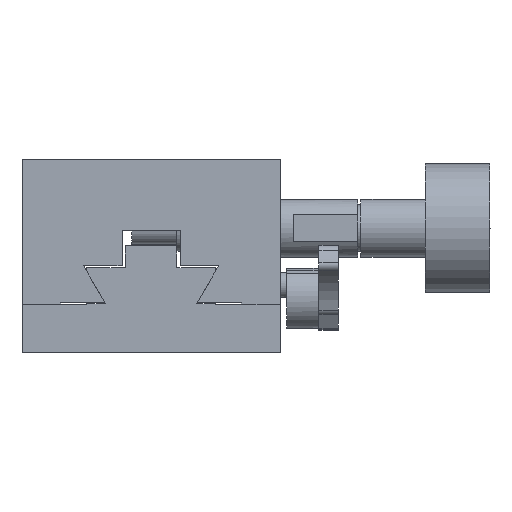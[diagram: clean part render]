
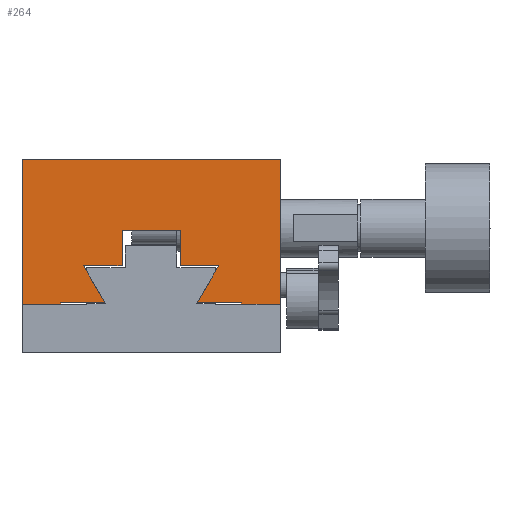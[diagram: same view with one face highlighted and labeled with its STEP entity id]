
A CAD part, left-side view. The second image highlights one B-rep face of the part: STEP entity #264.
In plain terms, the highlighted planar face has unit normal (-1, 0, 0).
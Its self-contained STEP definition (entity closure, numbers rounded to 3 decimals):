
#264 = ADVANCED_FACE( '', ( #566 ), #567, .T. );
#566 = FACE_OUTER_BOUND( '', #946, .T. );
#567 = PLANE( '', #947 );
#946 = EDGE_LOOP( '', ( #1803, #1804, #1805, #1806, #1807, #1808, #1809, #1810, #1811, #1812, #1813, #1814, #1815, #1816, #1817, #1818 ) );
#947 = AXIS2_PLACEMENT_3D( '', #1819, #1820, #1821 );
#1803 = ORIENTED_EDGE( '', *, *, #2479, .T. );
#1804 = ORIENTED_EDGE( '', *, *, #2443, .T. );
#1805 = ORIENTED_EDGE( '', *, *, #2480, .T. );
#1806 = ORIENTED_EDGE( '', *, *, #2481, .T. );
#1807 = ORIENTED_EDGE( '', *, *, #2482, .T. );
#1808 = ORIENTED_EDGE( '', *, *, #2483, .T. );
#1809 = ORIENTED_EDGE( '', *, *, #2391, .T. );
#1810 = ORIENTED_EDGE( '', *, *, #2484, .T. );
#1811 = ORIENTED_EDGE( '', *, *, #2485, .T. );
#1812 = ORIENTED_EDGE( '', *, *, #2486, .T. );
#1813 = ORIENTED_EDGE( '', *, *, #2487, .T. );
#1814 = ORIENTED_EDGE( '', *, *, #2439, .T. );
#1815 = ORIENTED_EDGE( '', *, *, #2488, .T. );
#1816 = ORIENTED_EDGE( '', *, *, #2489, .T. );
#1817 = ORIENTED_EDGE( '', *, *, #2406, .T. );
#1818 = ORIENTED_EDGE( '', *, *, #2490, .F. );
#1819 = CARTESIAN_POINT( '', ( -135., 0., 7.5 ) );
#1820 = DIRECTION( '', ( -1., 0., 0. ) );
#1821 = DIRECTION( '', ( 0., 0., 1. ) );
#2391 = EDGE_CURVE( '', #2853, #2851, #2854, .T. );
#2406 = EDGE_CURVE( '', #2877, #2881, #2883, .T. );
#2439 = EDGE_CURVE( '', #2941, #2942, #2943, .T. );
#2443 = EDGE_CURVE( '', #2949, #2950, #2951, .T. );
#2479 = EDGE_CURVE( '', #3005, #2949, #3006, .T. );
#2480 = EDGE_CURVE( '', #2950, #3007, #3008, .T. );
#2481 = EDGE_CURVE( '', #3007, #3009, #3010, .T. );
#2482 = EDGE_CURVE( '', #3009, #3011, #3012, .T. );
#2483 = EDGE_CURVE( '', #3011, #2853, #3013, .T. );
#2484 = EDGE_CURVE( '', #2851, #3014, #3015, .T. );
#2485 = EDGE_CURVE( '', #3014, #3016, #3017, .T. );
#2486 = EDGE_CURVE( '', #3016, #3018, #3019, .T. );
#2487 = EDGE_CURVE( '', #3018, #2941, #3020, .T. );
#2488 = EDGE_CURVE( '', #2942, #3021, #3022, .T. );
#2489 = EDGE_CURVE( '', #3021, #2877, #3023, .T. );
#2490 = EDGE_CURVE( '', #3005, #2881, #3024, .T. );
#2851 = VERTEX_POINT( '', #3561 );
#2853 = VERTEX_POINT( '', #3564 );
#2854 = LINE( '', #3565, #3566 );
#2877 = VERTEX_POINT( '', #3596 );
#2881 = VERTEX_POINT( '', #3602 );
#2883 = LINE( '', #3605, #3606 );
#2941 = VERTEX_POINT( '', #3740 );
#2942 = VERTEX_POINT( '', #3741 );
#2943 = LINE( '', #3742, #3743 );
#2949 = VERTEX_POINT( '', #3752 );
#2950 = VERTEX_POINT( '', #3753 );
#2951 = LINE( '', #3754, #3755 );
#3005 = VERTEX_POINT( '', #3855 );
#3006 = LINE( '', #3856, #3857 );
#3007 = VERTEX_POINT( '', #3858 );
#3008 = LINE( '', #3859, #3860 );
#3009 = VERTEX_POINT( '', #3861 );
#3010 = LINE( '', #3862, #3863 );
#3011 = VERTEX_POINT( '', #3864 );
#3012 = LINE( '', #3865, #3866 );
#3013 = LINE( '', #3867, #3868 );
#3014 = VERTEX_POINT( '', #3869 );
#3015 = LINE( '', #3870, #3871 );
#3016 = VERTEX_POINT( '', #3872 );
#3017 = LINE( '', #3873, #3874 );
#3018 = VERTEX_POINT( '', #3875 );
#3019 = LINE( '', #3876, #3877 );
#3020 = LINE( '', #3878, #3879 );
#3021 = VERTEX_POINT( '', #3880 );
#3022 = LINE( '', #3881, #3882 );
#3023 = LINE( '', #3883, #3884 );
#3024 = LINE( '', #3885, #3886 );
#3561 = CARTESIAN_POINT( '', ( -135., -4.5, 19. ) );
#3564 = CARTESIAN_POINT( '', ( -135., 4.5, 19. ) );
#3565 = CARTESIAN_POINT( '', ( -135., 0., 19. ) );
#3566 = VECTOR( '', #4313, 1000. );
#3596 = CARTESIAN_POINT( '', ( -135., -20., 30. ) );
#3602 = CARTESIAN_POINT( '', ( -135., 20., 30. ) );
#3605 = CARTESIAN_POINT( '', ( -135., 0., 30. ) );
#3606 = VECTOR( '', #4345, 1000. );
#3740 = CARTESIAN_POINT( '', ( -135., -14., 7.8 ) );
#3741 = CARTESIAN_POINT( '', ( -135., -14., 7.5 ) );
#3742 = CARTESIAN_POINT( '', ( -135., -14., 7.5 ) );
#3743 = VECTOR( '', #4404, 1000. );
#3752 = CARTESIAN_POINT( '', ( -135., 14., 7.5 ) );
#3753 = CARTESIAN_POINT( '', ( -135., 14., 7.8 ) );
#3754 = CARTESIAN_POINT( '', ( -135., 14., 7.5 ) );
#3755 = VECTOR( '', #4408, 1000. );
#3855 = CARTESIAN_POINT( '', ( -135., 20., 7.5 ) );
#3856 = CARTESIAN_POINT( '', ( -135., 0., 7.5 ) );
#3857 = VECTOR( '', #4476, 1000. );
#3858 = CARTESIAN_POINT( '', ( -135., 7.173, 7.8 ) );
#3859 = CARTESIAN_POINT( '', ( -135., 0., 7.8 ) );
#3860 = VECTOR( '', #4477, 1000. );
#3861 = CARTESIAN_POINT( '', ( -135., 10.464, 13.5 ) );
#3862 = CARTESIAN_POINT( '', ( -135., 5.25, 4.469 ) );
#3863 = VECTOR( '', #4478, 1000. );
#3864 = CARTESIAN_POINT( '', ( -135., 4.5, 13.5 ) );
#3865 = CARTESIAN_POINT( '', ( -135., 0., 13.5 ) );
#3866 = VECTOR( '', #4479, 1000. );
#3867 = CARTESIAN_POINT( '', ( -135., 4.5, 7.5 ) );
#3868 = VECTOR( '', #4480, 1000. );
#3869 = CARTESIAN_POINT( '', ( -135., -4.5, 13.5 ) );
#3870 = CARTESIAN_POINT( '', ( -135., -4.5, 7.5 ) );
#3871 = VECTOR( '', #4481, 1000. );
#3872 = CARTESIAN_POINT( '', ( -135., -10.464, 13.5 ) );
#3873 = CARTESIAN_POINT( '', ( -135., 0., 13.5 ) );
#3874 = VECTOR( '', #4482, 1000. );
#3875 = CARTESIAN_POINT( '', ( -135., -7.173, 7.8 ) );
#3876 = CARTESIAN_POINT( '', ( -135., -5.25, 4.469 ) );
#3877 = VECTOR( '', #4483, 1000. );
#3878 = CARTESIAN_POINT( '', ( -135., 0., 7.8 ) );
#3879 = VECTOR( '', #4484, 1000. );
#3880 = CARTESIAN_POINT( '', ( -135., -20., 7.5 ) );
#3881 = CARTESIAN_POINT( '', ( -135., 0., 7.5 ) );
#3882 = VECTOR( '', #4485, 1000. );
#3883 = CARTESIAN_POINT( '', ( -135., -20., 7.5 ) );
#3884 = VECTOR( '', #4486, 1000. );
#3885 = CARTESIAN_POINT( '', ( -135., 20., 7.5 ) );
#3886 = VECTOR( '', #4487, 1000. );
#4313 = DIRECTION( '', ( 0., -1., 0. ) );
#4345 = DIRECTION( '', ( 0., 1., 0. ) );
#4404 = DIRECTION( '', ( 0., 0., -1. ) );
#4408 = DIRECTION( '', ( 0., 0., 1. ) );
#4476 = DIRECTION( '', ( 0., -1., 0. ) );
#4477 = DIRECTION( '', ( 0., -1., 0. ) );
#4478 = DIRECTION( '', ( 0., 0.5, 0.866 ) );
#4479 = DIRECTION( '', ( 0., -1., 0. ) );
#4480 = DIRECTION( '', ( 0., 0., 1. ) );
#4481 = DIRECTION( '', ( 0., 0., -1. ) );
#4482 = DIRECTION( '', ( 0., -1., 0. ) );
#4483 = DIRECTION( '', ( 0., 0.5, -0.866 ) );
#4484 = DIRECTION( '', ( 0., -1., 0. ) );
#4485 = DIRECTION( '', ( 0., -1., 0. ) );
#4486 = DIRECTION( '', ( 0., 0., 1. ) );
#4487 = DIRECTION( '', ( 0., 0., 1. ) );
